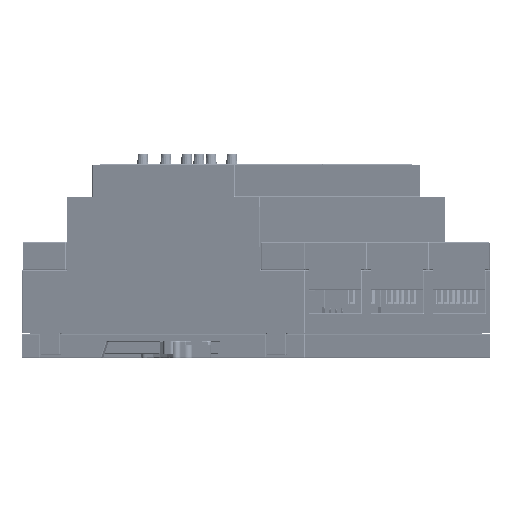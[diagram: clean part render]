
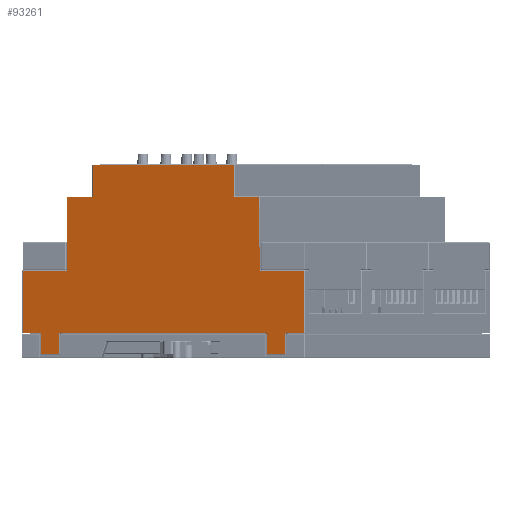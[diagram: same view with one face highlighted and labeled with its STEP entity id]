
A CAD part, left-side view. The second image highlights one B-rep face of the part: STEP entity #93261.
In plain terms, the highlighted planar face has unit normal (-0.938, 0.347, 0) as drawn and (1, 0, 0) by its records, which use the part's own axes.
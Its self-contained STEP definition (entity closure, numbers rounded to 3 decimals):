
#9545=FACE_OUTER_BOUND('',#14868,.T.);
#14868=EDGE_LOOP('',(#62742,#62743,#62744,#62745,#62746,#62747,#62748,#62749,
#62750,#62751,#62752,#62753,#62754,#62755,#62756,#62757,#62758,#62759,#62760,
#62761));
#21367=LINE('',#137341,#30329);
#21391=LINE('',#137424,#30353);
#21393=LINE('',#137431,#30355);
#21533=LINE('',#138341,#30495);
#21534=LINE('',#138346,#30496);
#21540=LINE('',#138392,#30502);
#21548=LINE('',#138440,#30510);
#21556=LINE('',#138490,#30518);
#21558=LINE('',#138497,#30520);
#21614=LINE('',#138718,#30576);
#21630=LINE('',#138794,#30592);
#21638=LINE('',#138821,#30600);
#21675=LINE('',#138957,#30637);
#21680=LINE('',#139022,#30642);
#21689=LINE('',#139113,#30651);
#21693=LINE('',#139127,#30655);
#21696=LINE('',#139131,#30658);
#21697=LINE('',#139133,#30659);
#21698=LINE('',#139135,#30660);
#21699=LINE('',#139137,#30661);
#30329=VECTOR('',#108532,14.199);
#30353=VECTOR('',#108572,22.001);
#30355=VECTOR('',#108580,14.199);
#30495=VECTOR('',#109036,6.5);
#30496=VECTOR('',#109043,6.);
#30502=VECTOR('',#109063,66.4);
#30510=VECTOR('',#109085,6.5);
#30518=VECTOR('',#109109,6.);
#30520=VECTOR('',#109117,6.5);
#30576=VECTOR('',#109391,6.5);
#30592=VECTOR('',#109507,18.6);
#30600=VECTOR('',#109545,18.6);
#30637=VECTOR('',#109718,8.101);
#30642=VECTOR('',#109739,9.6);
#30651=VECTOR('',#109792,8.101);
#30655=VECTOR('',#109814,5.8);
#30658=VECTOR('',#109819,22.001);
#30659=VECTOR('',#109822,9.6);
#30660=VECTOR('',#109825,45.1);
#30661=VECTOR('',#109828,5.8);
#39292=VERTEX_POINT('',#137320);
#39299=VERTEX_POINT('',#137340);
#39302=VERTEX_POINT('',#137371);
#39325=VERTEX_POINT('',#137423);
#39327=VERTEX_POINT('',#137429);
#39482=VERTEX_POINT('',#138320);
#39489=VERTEX_POINT('',#138340);
#39490=VERTEX_POINT('',#138344);
#39493=VERTEX_POINT('',#138375);
#39498=VERTEX_POINT('',#138391);
#39506=VERTEX_POINT('',#138439);
#39509=VERTEX_POINT('',#138470);
#39515=VERTEX_POINT('',#138489);
#39517=VERTEX_POINT('',#138495);
#39571=VERTEX_POINT('',#138699);
#39607=VERTEX_POINT('',#138917);
#39616=VERTEX_POINT('',#138949);
#39618=VERTEX_POINT('',#138955);
#39623=VERTEX_POINT('',#139034);
#39629=VERTEX_POINT('',#139106);
#48183=EDGE_CURVE('',#39292,#39299,#21367,.T.);
#48212=EDGE_CURVE('',#39302,#39325,#21391,.T.);
#48216=EDGE_CURVE('',#39327,#39302,#21393,.T.);
#48450=EDGE_CURVE('',#39482,#39489,#21533,.T.);
#48453=EDGE_CURVE('',#39490,#39482,#21534,.T.);
#48463=EDGE_CURVE('',#39493,#39498,#21540,.T.);
#48475=EDGE_CURVE('',#39498,#39506,#21548,.T.);
#48488=EDGE_CURVE('',#39509,#39515,#21556,.T.);
#48492=EDGE_CURVE('',#39517,#39509,#21558,.T.);
#48605=EDGE_CURVE('',#39571,#39493,#21614,.T.);
#48646=EDGE_CURVE('',#39299,#39490,#21630,.T.);
#48661=EDGE_CURVE('',#39515,#39327,#21638,.T.);
#48734=EDGE_CURVE('',#39618,#39616,#21675,.T.);
#48743=EDGE_CURVE('',#39607,#39618,#21680,.T.);
#48764=EDGE_CURVE('',#39325,#39629,#21689,.T.);
#48771=EDGE_CURVE('',#39506,#39517,#21693,.T.);
#48774=EDGE_CURVE('',#39616,#39292,#21696,.T.);
#48775=EDGE_CURVE('',#39629,#39623,#21697,.T.);
#48776=EDGE_CURVE('',#39623,#39607,#21698,.T.);
#48777=EDGE_CURVE('',#39489,#39571,#21699,.T.);
#62742=ORIENTED_EDGE('',*,*,#48775,.F.);
#62743=ORIENTED_EDGE('',*,*,#48764,.F.);
#62744=ORIENTED_EDGE('',*,*,#48212,.F.);
#62745=ORIENTED_EDGE('',*,*,#48216,.F.);
#62746=ORIENTED_EDGE('',*,*,#48661,.F.);
#62747=ORIENTED_EDGE('',*,*,#48488,.F.);
#62748=ORIENTED_EDGE('',*,*,#48492,.F.);
#62749=ORIENTED_EDGE('',*,*,#48771,.F.);
#62750=ORIENTED_EDGE('',*,*,#48475,.F.);
#62751=ORIENTED_EDGE('',*,*,#48463,.F.);
#62752=ORIENTED_EDGE('',*,*,#48605,.F.);
#62753=ORIENTED_EDGE('',*,*,#48777,.F.);
#62754=ORIENTED_EDGE('',*,*,#48450,.F.);
#62755=ORIENTED_EDGE('',*,*,#48453,.F.);
#62756=ORIENTED_EDGE('',*,*,#48646,.F.);
#62757=ORIENTED_EDGE('',*,*,#48183,.F.);
#62758=ORIENTED_EDGE('',*,*,#48774,.F.);
#62759=ORIENTED_EDGE('',*,*,#48734,.F.);
#62760=ORIENTED_EDGE('',*,*,#48743,.F.);
#62761=ORIENTED_EDGE('',*,*,#48776,.F.);
#88348=PLANE('',#98959);
#93261=ADVANCED_FACE('',(#9545),#88348,.F.);
#98959=AXIS2_PLACEMENT_3D('',#139140,#109832,#109833);
#108532=DIRECTION('',(0.,1.,0.));
#108572=DIRECTION('',(0.,0.007,1.));
#108580=DIRECTION('',(0.,1.,0.));
#109036=DIRECTION('',(0.,0.,-1.));
#109043=DIRECTION('',(0.,-1.,0.));
#109063=DIRECTION('',(0.,-1.,0.));
#109085=DIRECTION('',(0.,0.,-1.));
#109109=DIRECTION('',(0.,-1.,0.));
#109117=DIRECTION('',(0.,0.,1.));
#109391=DIRECTION('',(0.,0.,1.));
#109507=DIRECTION('',(0.,0.,-1.));
#109545=DIRECTION('',(0.,0.,1.));
#109718=DIRECTION('',(0.,1.,0.));
#109739=DIRECTION('',(0.,0.,-1.));
#109792=DIRECTION('',(0.,1.,0.));
#109814=DIRECTION('',(0.,-1.,0.));
#109819=DIRECTION('',(0.,0.007,-1.));
#109822=DIRECTION('',(0.,0.,1.));
#109825=DIRECTION('',(0.,1.,0.));
#109828=DIRECTION('',(0.,-1.,0.));
#109832=DIRECTION('center_axis',(-1.,0.,0.));
#109833=DIRECTION('ref_axis',(0.,0.,-1.));
#137320=CARTESIAN_POINT('',(80.,30.801,18.8));
#137340=CARTESIAN_POINT('',(80.,45.,18.8));
#137341=CARTESIAN_POINT('',(80.,15.5,18.8));
#137371=CARTESIAN_POINT('',(80.,-30.801,18.8));
#137423=CARTESIAN_POINT('',(80.,-30.651,40.8));
#137424=CARTESIAN_POINT('',(80.,-30.864,9.605));
#137429=CARTESIAN_POINT('',(80.,-45.,18.8));
#137431=CARTESIAN_POINT('',(80.,-22.6,18.8));
#138320=CARTESIAN_POINT('',(80.,39.,0.2));
#138340=CARTESIAN_POINT('',(80.,39.,-6.3));
#138341=CARTESIAN_POINT('',(80.,39.,0.));
#138344=CARTESIAN_POINT('',(80.,45.,0.2));
#138346=CARTESIAN_POINT('',(80.,22.6,0.2));
#138375=CARTESIAN_POINT('',(80.,33.2,0.2));
#138391=CARTESIAN_POINT('',(80.,-33.2,0.2));
#138392=CARTESIAN_POINT('',(80.,22.6,0.2));
#138439=CARTESIAN_POINT('',(80.,-33.2,-6.3));
#138440=CARTESIAN_POINT('',(80.,-33.2,0.));
#138470=CARTESIAN_POINT('',(80.,-39.,0.2));
#138489=CARTESIAN_POINT('',(80.,-45.,0.2));
#138490=CARTESIAN_POINT('',(80.,22.6,0.2));
#138495=CARTESIAN_POINT('',(80.,-39.,-6.3));
#138497=CARTESIAN_POINT('',(80.,-39.,0.));
#138699=CARTESIAN_POINT('',(80.,33.2,-6.3));
#138718=CARTESIAN_POINT('',(80.,33.2,0.));
#138794=CARTESIAN_POINT('',(80.,45.,9.5));
#138821=CARTESIAN_POINT('',(80.,-45.,0.));
#138917=CARTESIAN_POINT('',(80.,22.55,50.4));
#138949=CARTESIAN_POINT('',(80.,30.651,40.8));
#138955=CARTESIAN_POINT('',(80.,22.55,40.8));
#138957=CARTESIAN_POINT('',(80.,11.375,40.8));
#139022=CARTESIAN_POINT('',(80.,22.55,25.3));
#139034=CARTESIAN_POINT('',(80.,-22.55,50.4));
#139106=CARTESIAN_POINT('',(80.,-22.55,40.8));
#139113=CARTESIAN_POINT('',(80.,-15.425,40.8));
#139127=CARTESIAN_POINT('',(80.,0.,-6.3));
#139131=CARTESIAN_POINT('',(80.,30.789,20.605));
#139133=CARTESIAN_POINT('',(80.,-22.55,20.5));
#139135=CARTESIAN_POINT('',(80.,-11.375,50.4));
#139137=CARTESIAN_POINT('',(80.,0.,-6.3));
#139140=CARTESIAN_POINT('Origin',(80.,0.,0.));
